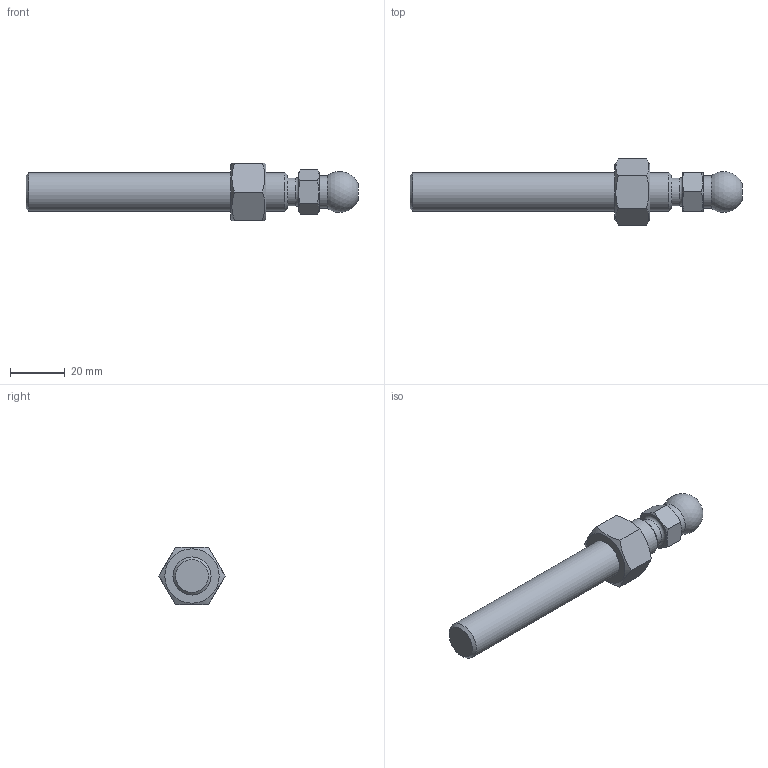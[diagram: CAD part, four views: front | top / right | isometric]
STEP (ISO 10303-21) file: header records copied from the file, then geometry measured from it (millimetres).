
FILE_DESCRIPTION(('STEP AP203'), '1');
FILE_NAME('A00020.114100', '', ('UNSPECIFIED'), ('UNSPECIFIED'), 'C3D Converter', 'C3D Toolkit', '');
FILE_SCHEMA(('CONFIG_CONTROL_DESIGN'));
Length unit declared in the file: millimetre
Products named in the file (2): A00020.114100
Assembly tree (1 placements, depth 2):
  A00020.114100
    (unnamed)
Bounding box: 121.8 x 24.25 x 21 mm (x, y, z)
Volume: 21631 mm3; surface area: 7516.1 mm2
Topology: 2 solids, 2 shells, 43 faces, 88 edges, 52 vertices
Faces by surface type: plane 19, cone 18, cylinder 4, torus 1, sphere 1
Full cylindrical faces by diameter (mm): 10.2 x1, 11.835 x1, 12 x1, 14 x1
Entity records: 2211 total; most frequent: CARTESIAN_POINT 1309, DIRECTION 158, ORIENTED_EDGE 152, EDGE_CURVE 76, AXIS2_PLACEMENT_3D 73, EDGE_LOOP 60, VERTEX_POINT 52, ADVANCED_FACE 43
